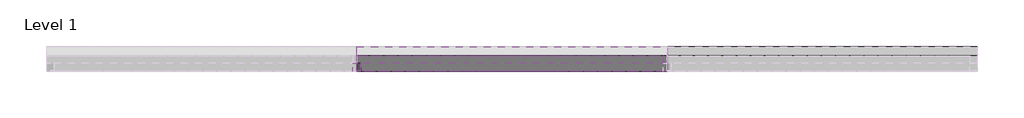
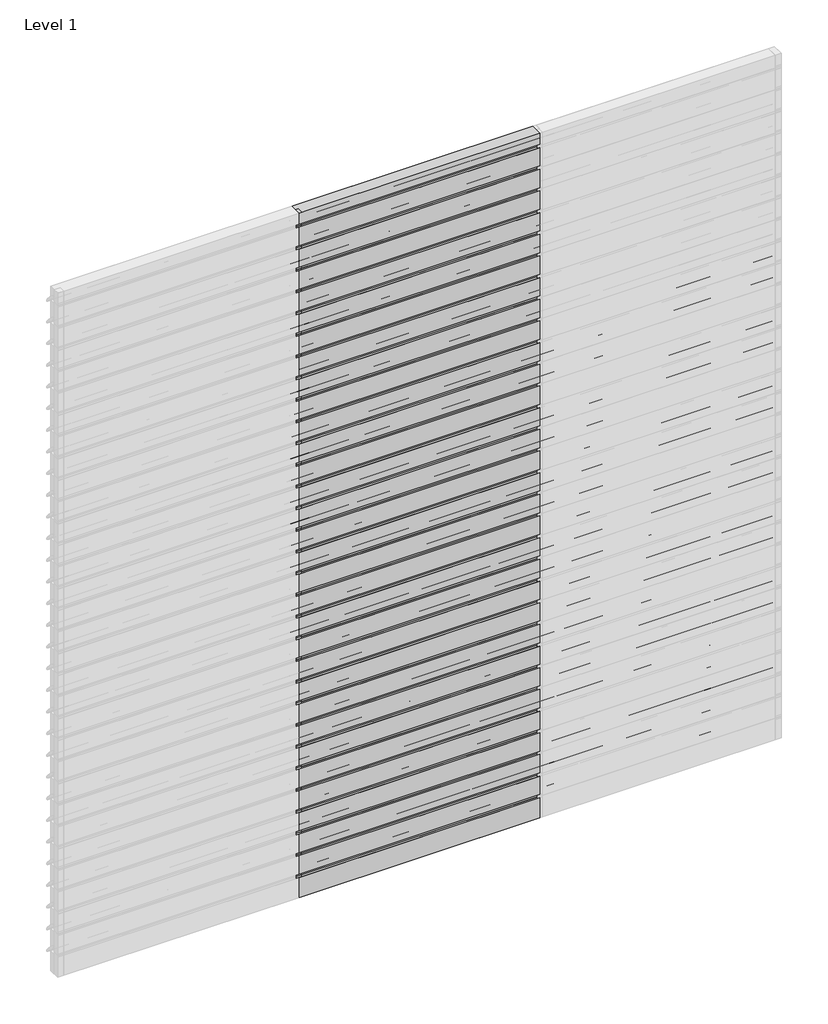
# One storey, part 2 of 3: 74 members, 64 plates.
"""IFC4 building model written with IfcOpenShell, lengths in millimetres."""

from ifc_helpers import new_model, si_unit, origin, place, context, project, spatial, transform, mapped, element, save
from components import rectangular_mullion_8734c8a8, rectangular_mullion_3201b9fb, rectangular_mullion_5aa39df7, empty_system_panel_empty_0e8c6ffc, empty_system_panel_empty_bbeb8583, empty_system_panel_empty_e07de6c1, empty_system_panel_empty_fbe7752e, empty_system_panel_empty_6f6190f9

model = new_model("IFC4")

# Units and contexts
model_context = context("Model", 3, world=origin())
ifc_project = project(units=[si_unit("LENGTHUNIT", "METRE", prefix="MILLI")], contexts=[model_context])

# Site, building, storey
site = spatial("IfcSite", under=ifc_project)
building = spatial("IfcBuilding", under=site)
storey = spatial("IfcBuildingStorey", under=building, Name="Level 1", Elevation=0.0)

# Members
placement = place(None, origin())
rectangular_mullion_shape = rectangular_mullion_8734c8a8(model_context)
element("IfcMember", 1, ObjectType="Rectangular Mullion : RSen_21_CWM_blade - 150 CF_gen_duco projects", at=placement, inside=storey, context=model_context, shape_type="MappedRepresentation", body=[
    mapped(rectangular_mullion_shape, transform((4000.0, 3000.0, 190.0), x_axis=(0.0, 0.0, 1.0), y_axis=(0.0, 1.0, 0.0), z_axis=(-1.0, 0.0, 0.0))),
])
element("IfcMember", 2, ObjectType="Rectangular Mullion : RSen_21_CWM_blade - 150 CF_gen_duco projects", at=placement, inside=storey, context=model_context, shape_type="MappedRepresentation", body=[
    mapped(rectangular_mullion_shape, transform((4000.0, 3000.0, 380.0), x_axis=(0.0, 0.0, 1.0), y_axis=(0.0, 1.0, 0.0), z_axis=(-1.0, 0.0, 0.0))),
])
element("IfcMember", 3, ObjectType="Rectangular Mullion : RSen_21_CWM_blade - 150 CF_gen_duco projects", at=placement, inside=storey, context=model_context, shape_type="MappedRepresentation", body=[
    mapped(rectangular_mullion_shape, transform((4000.0, 3000.0, 570.0), x_axis=(0.0, 0.0, 1.0), y_axis=(0.0, 1.0, 0.0), z_axis=(-1.0, 0.0, 0.0))),
])
element("IfcMember", 4, ObjectType="Rectangular Mullion : RSen_21_CWM_blade - 150 CF_gen_duco projects", at=placement, inside=storey, context=model_context, shape_type="MappedRepresentation", body=[
    mapped(rectangular_mullion_shape, transform((4000.0, 3000.0, 760.0), x_axis=(0.0, 0.0, 1.0), y_axis=(0.0, 1.0, 0.0), z_axis=(-1.0, 0.0, 0.0))),
])
element("IfcMember", 5, ObjectType="Rectangular Mullion : RSen_21_CWM_blade - 150 CF_gen_duco projects", at=placement, inside=storey, context=model_context, shape_type="MappedRepresentation", body=[
    mapped(rectangular_mullion_shape, transform((4000.0, 3000.0, 950.0), x_axis=(0.0, 0.0, 1.0), y_axis=(0.0, 1.0, 0.0), z_axis=(-1.0, 0.0, 0.0))),
])
element("IfcMember", 6, ObjectType="Rectangular Mullion : RSen_21_CWM_blade - 150 CF_gen_duco projects", at=placement, inside=storey, context=model_context, shape_type="MappedRepresentation", body=[
    mapped(rectangular_mullion_shape, transform((4000.0, 3000.0, 1140.0), x_axis=(0.0, 0.0, 1.0), y_axis=(0.0, 1.0, 0.0), z_axis=(-1.0, 0.0, 0.0))),
])
element("IfcMember", 7, ObjectType="Rectangular Mullion : RSen_21_CWM_blade - 150 CF_gen_duco projects", at=placement, inside=storey, context=model_context, shape_type="MappedRepresentation", body=[
    mapped(rectangular_mullion_shape, transform((4000.0, 3000.0, 1330.0), x_axis=(0.0, 0.0, 1.0), y_axis=(0.0, 1.0, 0.0), z_axis=(-1.0, 0.0, 0.0))),
])
element("IfcMember", 8, ObjectType="Rectangular Mullion : RSen_21_CWM_blade - 150 CF_gen_duco projects", at=placement, inside=storey, context=model_context, shape_type="MappedRepresentation", body=[
    mapped(rectangular_mullion_shape, transform((4000.0, 3000.0, 1520.0), x_axis=(0.0, 0.0, 1.0), y_axis=(0.0, 1.0, 0.0), z_axis=(-1.0, 0.0, 0.0))),
])
element("IfcMember", 9, ObjectType="Rectangular Mullion : RSen_21_CWM_blade - 150 CF_gen_duco projects", at=placement, inside=storey, context=model_context, shape_type="MappedRepresentation", body=[
    mapped(rectangular_mullion_shape, transform((4000.0, 3000.0, 1710.0), x_axis=(0.0, 0.0, 1.0), y_axis=(0.0, 1.0, 0.0), z_axis=(-1.0, 0.0, 0.0))),
])
element("IfcMember", 10, ObjectType="Rectangular Mullion : RSen_21_CWM_blade - 150 CF_gen_duco projects", at=placement, inside=storey, context=model_context, shape_type="MappedRepresentation", body=[
    mapped(rectangular_mullion_shape, transform((4000.0, 3000.0, 1900.0), x_axis=(0.0, 0.0, 1.0), y_axis=(0.0, 1.0, 0.0), z_axis=(-1.0, 0.0, 0.0))),
])
element("IfcMember", 11, ObjectType="Rectangular Mullion : RSen_21_CWM_blade - 150 CF_gen_duco projects", at=placement, inside=storey, context=model_context, shape_type="MappedRepresentation", body=[
    mapped(rectangular_mullion_shape, transform((4000.0, 3000.0, 2090.0), x_axis=(0.0, 0.0, 1.0), y_axis=(0.0, 1.0, 0.0), z_axis=(-1.0, 0.0, 0.0))),
])
element("IfcMember", 12, ObjectType="Rectangular Mullion : RSen_21_CWM_blade - 150 CF_gen_duco projects", at=placement, inside=storey, context=model_context, shape_type="MappedRepresentation", body=[
    mapped(rectangular_mullion_shape, transform((4000.0, 3000.0, 2280.0), x_axis=(0.0, 0.0, 1.0), y_axis=(0.0, 1.0, 0.0), z_axis=(-1.0, 0.0, 0.0))),
])
element("IfcMember", 13, ObjectType="Rectangular Mullion : RSen_21_CWM_blade - 150 CF_gen_duco projects", at=placement, inside=storey, context=model_context, shape_type="MappedRepresentation", body=[
    mapped(rectangular_mullion_shape, transform((4000.0, 3000.0, 2470.0), x_axis=(0.0, 0.0, 1.0), y_axis=(0.0, 1.0, 0.0), z_axis=(-1.0, 0.0, 0.0))),
])
element("IfcMember", 14, ObjectType="Rectangular Mullion : RSen_21_CWM_blade - 150 CF_gen_duco projects", at=placement, inside=storey, context=model_context, shape_type="MappedRepresentation", body=[
    mapped(rectangular_mullion_shape, transform((4000.0, 3000.0, 2660.0), x_axis=(0.0, 0.0, 1.0), y_axis=(0.0, 1.0, 0.0), z_axis=(-1.0, 0.0, 0.0))),
])
element("IfcMember", 15, ObjectType="Rectangular Mullion : RSen_21_CWM_blade - 150 CF_gen_duco projects", at=placement, inside=storey, context=model_context, shape_type="MappedRepresentation", body=[
    mapped(rectangular_mullion_shape, transform((4000.0, 3000.0, 2850.0), x_axis=(0.0, 0.0, 1.0), y_axis=(0.0, 1.0, 0.0), z_axis=(-1.0, 0.0, 0.0))),
])
element("IfcMember", 16, ObjectType="Rectangular Mullion : RSen_21_CWM_blade - 150 CF_gen_duco projects", at=placement, inside=storey, context=model_context, shape_type="MappedRepresentation", body=[
    mapped(rectangular_mullion_shape, transform((4000.0, 3000.0, 3040.0), x_axis=(0.0, 0.0, 1.0), y_axis=(0.0, 1.0, 0.0), z_axis=(-1.0, 0.0, 0.0))),
])
element("IfcMember", 17, ObjectType="Rectangular Mullion : RSen_21_CWM_blade - 150 CF_gen_duco projects", at=placement, inside=storey, context=model_context, shape_type="MappedRepresentation", body=[
    mapped(rectangular_mullion_shape, transform((4000.0, 3000.0, 3230.0), x_axis=(0.0, 0.0, 1.0), y_axis=(0.0, 1.0, 0.0), z_axis=(-1.0, 0.0, 0.0))),
])
element("IfcMember", 18, ObjectType="Rectangular Mullion : RSen_21_CWM_blade - 150 CF_gen_duco projects", at=placement, inside=storey, context=model_context, shape_type="MappedRepresentation", body=[
    mapped(rectangular_mullion_shape, transform((4000.0, 3000.0, 3420.0), x_axis=(0.0, 0.0, 1.0), y_axis=(0.0, 1.0, 0.0), z_axis=(-1.0, 0.0, 0.0))),
])
element("IfcMember", 19, ObjectType="Rectangular Mullion : RSen_21_CWM_blade - 150 CF_gen_duco projects", at=placement, inside=storey, context=model_context, shape_type="MappedRepresentation", body=[
    mapped(rectangular_mullion_shape, transform((4000.0, 3000.0, 3610.0), x_axis=(0.0, 0.0, 1.0), y_axis=(0.0, 1.0, 0.0), z_axis=(-1.0, 0.0, 0.0))),
])
element("IfcMember", 20, ObjectType="Rectangular Mullion : RSen_21_CWM_blade - 150 CF_gen_duco projects", at=placement, inside=storey, context=model_context, shape_type="MappedRepresentation", body=[
    mapped(rectangular_mullion_shape, transform((4000.0, 3000.0, 3800.0), x_axis=(0.0, 0.0, 1.0), y_axis=(0.0, 1.0, 0.0), z_axis=(-1.0, 0.0, 0.0))),
])
element("IfcMember", 21, ObjectType="Rectangular Mullion : RSen_21_CWM_blade - 150 CF_gen_duco projects", at=placement, inside=storey, context=model_context, shape_type="MappedRepresentation", body=[
    mapped(rectangular_mullion_shape, transform((4000.0, 3000.0, 3990.0), x_axis=(0.0, 0.0, 1.0), y_axis=(0.0, 1.0, 0.0), z_axis=(-1.0, 0.0, 0.0))),
])
element("IfcMember", 22, ObjectType="Rectangular Mullion : RSen_21_CWM_blade - 150 CF_gen_duco projects", at=placement, inside=storey, context=model_context, shape_type="MappedRepresentation", body=[
    mapped(rectangular_mullion_shape, transform((4000.0, 3000.0, 4180.0), x_axis=(0.0, 0.0, 1.0), y_axis=(0.0, 1.0, 0.0), z_axis=(-1.0, 0.0, 0.0))),
])
element("IfcMember", 23, ObjectType="Rectangular Mullion : RSen_21_CWM_blade - 150 CF_gen_duco projects", at=placement, inside=storey, context=model_context, shape_type="MappedRepresentation", body=[
    mapped(rectangular_mullion_shape, transform((2000.0, 3000.0, 2280.0), x_axis=(0.0, 0.0, 1.0), y_axis=(0.0, 1.0, 0.0), z_axis=(-1.0, 0.0, 0.0))),
])
element("IfcMember", 24, ObjectType="Rectangular Mullion : RSen_21_CWM_blade - 150 CF_gen_duco projects", at=placement, inside=storey, context=model_context, shape_type="MappedRepresentation", body=[
    mapped(rectangular_mullion_shape, transform((2000.0, 3000.0, 2470.0), x_axis=(0.0, 0.0, 1.0), y_axis=(0.0, 1.0, 0.0), z_axis=(-1.0, 0.0, 0.0))),
])
element("IfcMember", 25, ObjectType="Rectangular Mullion : RSen_21_CWM_blade - 150 CF_gen_duco projects", at=placement, inside=storey, context=model_context, shape_type="MappedRepresentation", body=[
    mapped(rectangular_mullion_shape, transform((2000.0, 3000.0, 2660.0), x_axis=(0.0, 0.0, 1.0), y_axis=(0.0, 1.0, 0.0), z_axis=(-1.0, 0.0, 0.0))),
])
element("IfcMember", 26, ObjectType="Rectangular Mullion : RSen_21_CWM_blade - 150 CF_gen_duco projects", at=placement, inside=storey, context=model_context, shape_type="MappedRepresentation", body=[
    mapped(rectangular_mullion_shape, transform((2000.0, 3000.0, 2850.0), x_axis=(0.0, 0.0, 1.0), y_axis=(0.0, 1.0, 0.0), z_axis=(-1.0, 0.0, 0.0))),
])
element("IfcMember", 27, ObjectType="Rectangular Mullion : RSen_21_CWM_blade - 150 CF_gen_duco projects", at=placement, inside=storey, context=model_context, shape_type="MappedRepresentation", body=[
    mapped(rectangular_mullion_shape, transform((2000.0, 3000.0, 3040.0), x_axis=(0.0, 0.0, 1.0), y_axis=(0.0, 1.0, 0.0), z_axis=(-1.0, 0.0, 0.0))),
])
element("IfcMember", 28, ObjectType="Rectangular Mullion : RSen_21_CWM_blade - 150 CF_gen_duco projects", at=placement, inside=storey, context=model_context, shape_type="MappedRepresentation", body=[
    mapped(rectangular_mullion_shape, transform((2000.0, 3000.0, 3230.0), x_axis=(0.0, 0.0, 1.0), y_axis=(0.0, 1.0, 0.0), z_axis=(-1.0, 0.0, 0.0))),
])
element("IfcMember", 29, ObjectType="Rectangular Mullion : RSen_21_CWM_blade - 150 CF_gen_duco projects", at=placement, inside=storey, context=model_context, shape_type="MappedRepresentation", body=[
    mapped(rectangular_mullion_shape, transform((2000.0, 3000.0, 3420.0), x_axis=(0.0, 0.0, 1.0), y_axis=(0.0, 1.0, 0.0), z_axis=(-1.0, 0.0, 0.0))),
])
element("IfcMember", 30, ObjectType="Rectangular Mullion : RSen_21_CWM_blade - 150 CF_gen_duco projects", at=placement, inside=storey, context=model_context, shape_type="MappedRepresentation", body=[
    mapped(rectangular_mullion_shape, transform((2000.0, 3000.0, 3610.0), x_axis=(0.0, 0.0, 1.0), y_axis=(0.0, 1.0, 0.0), z_axis=(-1.0, 0.0, 0.0))),
])
element("IfcMember", 31, ObjectType="Rectangular Mullion : RSen_21_CWM_blade - 150 CF_gen_duco projects", at=placement, inside=storey, context=model_context, shape_type="MappedRepresentation", body=[
    mapped(rectangular_mullion_shape, transform((2000.0, 3000.0, 3800.0), x_axis=(0.0, 0.0, 1.0), y_axis=(0.0, 1.0, 0.0), z_axis=(-1.0, 0.0, 0.0))),
])
element("IfcMember", 32, ObjectType="Rectangular Mullion : RSen_21_CWM_blade - 150 CF_gen_duco projects", at=placement, inside=storey, context=model_context, shape_type="MappedRepresentation", body=[
    mapped(rectangular_mullion_shape, transform((2000.0, 3000.0, 3990.0), x_axis=(0.0, 0.0, 1.0), y_axis=(0.0, 1.0, 0.0), z_axis=(-1.0, 0.0, 0.0))),
])
element("IfcMember", 33, ObjectType="Rectangular Mullion : RSen_21_CWM_blade - 150 CF_gen_duco projects", at=placement, inside=storey, context=model_context, shape_type="MappedRepresentation", body=[
    mapped(rectangular_mullion_shape, transform((2000.0, 3000.0, 4180.0), x_axis=(0.0, 0.0, 1.0), y_axis=(0.0, 1.0, 0.0), z_axis=(-1.0, 0.0, 0.0))),
])
element("IfcMember", 34, ObjectType="Rectangular Mullion : RSen_21_CWM_blade - 150 CF_gen_duco projects", at=placement, inside=storey, context=model_context, shape_type="MappedRepresentation", body=[
    mapped(rectangular_mullion_shape, transform((2000.0, 3000.0, 4370.0), x_axis=(0.0, 0.0, 1.0), y_axis=(0.0, 1.0, 0.0), z_axis=(-1.0, 0.0, 0.0))),
])
element("IfcMember", 35, ObjectType="Rectangular Mullion : RSen_21_CWM_blade - 150 CF_gen_duco projects", at=placement, inside=storey, context=model_context, shape_type="MappedRepresentation", body=[
    mapped(rectangular_mullion_shape, transform((2000.0, 3000.0, 4560.0), x_axis=(0.0, 0.0, 1.0), y_axis=(0.0, 1.0, 0.0), z_axis=(-1.0, 0.0, 0.0))),
])
element("IfcMember", 36, ObjectType="Rectangular Mullion : RSen_21_CWM_blade - 150 CF_gen_duco projects", at=placement, inside=storey, context=model_context, shape_type="MappedRepresentation", body=[
    mapped(rectangular_mullion_shape, transform((2000.0, 3000.0, 4750.0), x_axis=(0.0, 0.0, 1.0), y_axis=(0.0, 1.0, 0.0), z_axis=(-1.0, 0.0, 0.0))),
])
element("IfcMember", 37, ObjectType="Rectangular Mullion : RSen_21_CWM_blade - 150 CF_gen_duco projects", at=placement, inside=storey, context=model_context, shape_type="MappedRepresentation", body=[
    mapped(rectangular_mullion_shape, transform((2000.0, 3000.0, 4940.0), x_axis=(0.0, 0.0, 1.0), y_axis=(0.0, 1.0, 0.0), z_axis=(-1.0, 0.0, 0.0))),
])
element("IfcMember", 38, ObjectType="Rectangular Mullion : RSen_21_CWM_blade - 150 CF_gen_duco projects", at=placement, inside=storey, context=model_context, shape_type="MappedRepresentation", body=[
    mapped(rectangular_mullion_shape, transform((2000.0, 3000.0, 5130.0), x_axis=(0.0, 0.0, 1.0), y_axis=(0.0, 1.0, 0.0), z_axis=(-1.0, 0.0, 0.0))),
])
element("IfcMember", 39, ObjectType="Rectangular Mullion : RSen_21_CWM_blade - 150 CF_gen_duco projects", at=placement, inside=storey, context=model_context, shape_type="MappedRepresentation", body=[
    mapped(rectangular_mullion_shape, transform((2000.0, 3000.0, 5320.0), x_axis=(0.0, 0.0, 1.0), y_axis=(0.0, 1.0, 0.0), z_axis=(-1.0, 0.0, 0.0))),
])
element("IfcMember", 40, ObjectType="Rectangular Mullion : RSen_21_CWM_blade - 150 CF_gen_duco projects", at=placement, inside=storey, context=model_context, shape_type="MappedRepresentation", body=[
    mapped(rectangular_mullion_shape, transform((2000.0, 3000.0, 5510.0), x_axis=(0.0, 0.0, 1.0), y_axis=(0.0, 1.0, 0.0), z_axis=(-1.0, 0.0, 0.0))),
])
element("IfcMember", 41, ObjectType="Rectangular Mullion : RSen_21_CWM_blade - 150 CF_gen_duco projects", at=placement, inside=storey, context=model_context, shape_type="MappedRepresentation", body=[
    mapped(rectangular_mullion_shape, transform((2000.0, 3000.0, 5700.0), x_axis=(0.0, 0.0, 1.0), y_axis=(0.0, 1.0, 0.0), z_axis=(-1.0, 0.0, 0.0))),
])
element("IfcMember", 42, ObjectType="Rectangular Mullion : RSen_21_CWM_blade - 150 CF_gen_duco projects", at=placement, inside=storey, context=model_context, shape_type="MappedRepresentation", body=[
    mapped(rectangular_mullion_shape, transform((2000.0, 3000.0, 5890.0), x_axis=(0.0, 0.0, 1.0), y_axis=(0.0, 1.0, 0.0), z_axis=(-1.0, 0.0, 0.0))),
])
rectangular_mullion_2_shape = rectangular_mullion_3201b9fb(model_context)
element("IfcMember", 43, ObjectType="Rectangular Mullion : RSen_21_CWM_support profile 50x50_gen_duco projects", at=placement, inside=storey, context=model_context, shape_type="MappedRepresentation", body=[
    mapped(rectangular_mullion_2_shape, transform((2000.0, 3000.0, 0.0), x_axis=(-1.0, 0.0, 0.0), y_axis=(0.0, 1.0, 0.0), z_axis=(0.0, 0.0, -1.0))),
])
element("IfcMember", 44, ObjectType="Rectangular Mullion : RSen_21_CWM_support profile 50x50_gen_duco projects", at=placement, inside=storey, context=model_context, shape_type="MappedRepresentation", body=[
    mapped(rectangular_mullion_2_shape, transform((2000.0, 3000.0, 190.0), x_axis=(-1.0, 0.0, 0.0), y_axis=(0.0, 1.0, 0.0), z_axis=(0.0, 0.0, -1.0))),
])
element("IfcMember", 45, ObjectType="Rectangular Mullion : RSen_21_CWM_support profile 50x50_gen_duco projects", at=placement, inside=storey, context=model_context, shape_type="MappedRepresentation", body=[
    mapped(rectangular_mullion_2_shape, transform((2000.0, 3000.0, 380.0), x_axis=(-1.0, 0.0, 0.0), y_axis=(0.0, 1.0, 0.0), z_axis=(0.0, 0.0, -1.0))),
])
element("IfcMember", 46, ObjectType="Rectangular Mullion : RSen_21_CWM_support profile 50x50_gen_duco projects", at=placement, inside=storey, context=model_context, shape_type="MappedRepresentation", body=[
    mapped(rectangular_mullion_2_shape, transform((2000.0, 3000.0, 570.0), x_axis=(-1.0, 0.0, 0.0), y_axis=(0.0, 1.0, 0.0), z_axis=(0.0, 0.0, -1.0))),
])
element("IfcMember", 47, ObjectType="Rectangular Mullion : RSen_21_CWM_support profile 50x50_gen_duco projects", at=placement, inside=storey, context=model_context, shape_type="MappedRepresentation", body=[
    mapped(rectangular_mullion_2_shape, transform((2000.0, 3000.0, 760.0), x_axis=(-1.0, 0.0, 0.0), y_axis=(0.0, 1.0, 0.0), z_axis=(0.0, 0.0, -1.0))),
])
element("IfcMember", 48, ObjectType="Rectangular Mullion : RSen_21_CWM_support profile 50x50_gen_duco projects", at=placement, inside=storey, context=model_context, shape_type="MappedRepresentation", body=[
    mapped(rectangular_mullion_2_shape, transform((2000.0, 3000.0, 950.0), x_axis=(-1.0, 0.0, 0.0), y_axis=(0.0, 1.0, 0.0), z_axis=(0.0, 0.0, -1.0))),
])
element("IfcMember", 49, ObjectType="Rectangular Mullion : RSen_21_CWM_support profile 50x50_gen_duco projects", at=placement, inside=storey, context=model_context, shape_type="MappedRepresentation", body=[
    mapped(rectangular_mullion_2_shape, transform((2000.0, 3000.0, 1140.0), x_axis=(-1.0, 0.0, 0.0), y_axis=(0.0, 1.0, 0.0), z_axis=(0.0, 0.0, -1.0))),
])
element("IfcMember", 50, ObjectType="Rectangular Mullion : RSen_21_CWM_support profile 50x50_gen_duco projects", at=placement, inside=storey, context=model_context, shape_type="MappedRepresentation", body=[
    mapped(rectangular_mullion_2_shape, transform((2000.0, 3000.0, 1330.0), x_axis=(-1.0, 0.0, 0.0), y_axis=(0.0, 1.0, 0.0), z_axis=(0.0, 0.0, -1.0))),
])
element("IfcMember", 51, ObjectType="Rectangular Mullion : RSen_21_CWM_support profile 50x50_gen_duco projects", at=placement, inside=storey, context=model_context, shape_type="MappedRepresentation", body=[
    mapped(rectangular_mullion_2_shape, transform((2000.0, 3000.0, 1520.0), x_axis=(-1.0, 0.0, 0.0), y_axis=(0.0, 1.0, 0.0), z_axis=(0.0, 0.0, -1.0))),
])
element("IfcMember", 52, ObjectType="Rectangular Mullion : RSen_21_CWM_support profile 50x50_gen_duco projects", at=placement, inside=storey, context=model_context, shape_type="MappedRepresentation", body=[
    mapped(rectangular_mullion_2_shape, transform((2000.0, 3000.0, 1710.0), x_axis=(-1.0, 0.0, 0.0), y_axis=(0.0, 1.0, 0.0), z_axis=(0.0, 0.0, -1.0))),
])
element("IfcMember", 53, ObjectType="Rectangular Mullion : RSen_21_CWM_support profile 50x50_gen_duco projects", at=placement, inside=storey, context=model_context, shape_type="MappedRepresentation", body=[
    mapped(rectangular_mullion_2_shape, transform((2000.0, 3000.0, 1900.0), x_axis=(-1.0, 0.0, 0.0), y_axis=(0.0, 1.0, 0.0), z_axis=(0.0, 0.0, -1.0))),
])
element("IfcMember", 54, ObjectType="Rectangular Mullion : RSen_21_CWM_support profile 50x50_gen_duco projects", at=placement, inside=storey, context=model_context, shape_type="MappedRepresentation", body=[
    mapped(rectangular_mullion_2_shape, transform((2000.0, 3000.0, 2090.0), x_axis=(-1.0, 0.0, 0.0), y_axis=(0.0, 1.0, 0.0), z_axis=(0.0, 0.0, -1.0))),
])
element("IfcMember", 55, ObjectType="Rectangular Mullion : RSen_21_CWM_support profile 50x50_gen_duco projects", at=placement, inside=storey, context=model_context, shape_type="MappedRepresentation", body=[
    mapped(rectangular_mullion_2_shape, transform((2000.0, 3000.0, 2280.0), x_axis=(-1.0, 0.0, 0.0), y_axis=(0.0, 1.0, 0.0), z_axis=(0.0, 0.0, -1.0))),
])
element("IfcMember", 56, ObjectType="Rectangular Mullion : RSen_21_CWM_support profile 50x50_gen_duco projects", at=placement, inside=storey, context=model_context, shape_type="MappedRepresentation", body=[
    mapped(rectangular_mullion_2_shape, transform((2000.0, 3000.0, 2470.0), x_axis=(-1.0, 0.0, 0.0), y_axis=(0.0, 1.0, 0.0), z_axis=(0.0, 0.0, -1.0))),
])
element("IfcMember", 57, ObjectType="Rectangular Mullion : RSen_21_CWM_support profile 50x50_gen_duco projects", at=placement, inside=storey, context=model_context, shape_type="MappedRepresentation", body=[
    mapped(rectangular_mullion_2_shape, transform((2000.0, 3000.0, 2660.0), x_axis=(-1.0, 0.0, 0.0), y_axis=(0.0, 1.0, 0.0), z_axis=(0.0, 0.0, -1.0))),
])
element("IfcMember", 58, ObjectType="Rectangular Mullion : RSen_21_CWM_support profile 50x50_gen_duco projects", at=placement, inside=storey, context=model_context, shape_type="MappedRepresentation", body=[
    mapped(rectangular_mullion_2_shape, transform((2000.0, 3000.0, 2850.0), x_axis=(-1.0, 0.0, 0.0), y_axis=(0.0, 1.0, 0.0), z_axis=(0.0, 0.0, -1.0))),
])
element("IfcMember", 59, ObjectType="Rectangular Mullion : RSen_21_CWM_support profile 50x50_gen_duco projects", at=placement, inside=storey, context=model_context, shape_type="MappedRepresentation", body=[
    mapped(rectangular_mullion_2_shape, transform((2000.0, 3000.0, 3040.0), x_axis=(-1.0, 0.0, 0.0), y_axis=(0.0, 1.0, 0.0), z_axis=(0.0, 0.0, -1.0))),
])
element("IfcMember", 60, ObjectType="Rectangular Mullion : RSen_21_CWM_support profile 50x50_gen_duco projects", at=placement, inside=storey, context=model_context, shape_type="MappedRepresentation", body=[
    mapped(rectangular_mullion_2_shape, transform((2000.0, 3000.0, 3230.0), x_axis=(-1.0, 0.0, 0.0), y_axis=(0.0, 1.0, 0.0), z_axis=(0.0, 0.0, -1.0))),
])
element("IfcMember", 61, ObjectType="Rectangular Mullion : RSen_21_CWM_support profile 50x50_gen_duco projects", at=placement, inside=storey, context=model_context, shape_type="MappedRepresentation", body=[
    mapped(rectangular_mullion_2_shape, transform((2000.0, 3000.0, 3420.0), x_axis=(-1.0, 0.0, 0.0), y_axis=(0.0, 1.0, 0.0), z_axis=(0.0, 0.0, -1.0))),
])
element("IfcMember", 62, ObjectType="Rectangular Mullion : RSen_21_CWM_support profile 50x50_gen_duco projects", at=placement, inside=storey, context=model_context, shape_type="MappedRepresentation", body=[
    mapped(rectangular_mullion_2_shape, transform((2000.0, 3000.0, 3610.0), x_axis=(-1.0, 0.0, 0.0), y_axis=(0.0, 1.0, 0.0), z_axis=(0.0, 0.0, -1.0))),
])
element("IfcMember", 63, ObjectType="Rectangular Mullion : RSen_21_CWM_support profile 50x50_gen_duco projects", at=placement, inside=storey, context=model_context, shape_type="MappedRepresentation", body=[
    mapped(rectangular_mullion_2_shape, transform((2000.0, 3000.0, 3800.0), x_axis=(-1.0, 0.0, 0.0), y_axis=(0.0, 1.0, 0.0), z_axis=(0.0, 0.0, -1.0))),
])
element("IfcMember", 64, ObjectType="Rectangular Mullion : RSen_21_CWM_support profile 50x50_gen_duco projects", at=placement, inside=storey, context=model_context, shape_type="MappedRepresentation", body=[
    mapped(rectangular_mullion_2_shape, transform((2000.0, 3000.0, 3990.0), x_axis=(-1.0, 0.0, 0.0), y_axis=(0.0, 1.0, 0.0), z_axis=(0.0, 0.0, -1.0))),
])
element("IfcMember", 65, ObjectType="Rectangular Mullion : RSen_21_CWM_support profile 50x50_gen_duco projects", at=placement, inside=storey, context=model_context, shape_type="MappedRepresentation", body=[
    mapped(rectangular_mullion_2_shape, transform((2000.0, 3000.0, 4180.0), x_axis=(-1.0, 0.0, 0.0), y_axis=(0.0, 1.0, 0.0), z_axis=(0.0, 0.0, -1.0))),
])
element("IfcMember", 66, ObjectType="Rectangular Mullion : RSen_21_CWM_support profile 50x50_gen_duco projects", at=placement, inside=storey, context=model_context, shape_type="MappedRepresentation", body=[
    mapped(rectangular_mullion_2_shape, transform((2000.0, 3000.0, 4370.0), x_axis=(-1.0, 0.0, 0.0), y_axis=(0.0, 1.0, 0.0), z_axis=(0.0, 0.0, -1.0))),
])
element("IfcMember", 67, ObjectType="Rectangular Mullion : RSen_21_CWM_support profile 50x50_gen_duco projects", at=placement, inside=storey, context=model_context, shape_type="MappedRepresentation", body=[
    mapped(rectangular_mullion_2_shape, transform((2000.0, 3000.0, 4560.0), x_axis=(-1.0, 0.0, 0.0), y_axis=(0.0, 1.0, 0.0), z_axis=(0.0, 0.0, -1.0))),
])
element("IfcMember", 68, ObjectType="Rectangular Mullion : RSen_21_CWM_support profile 50x50_gen_duco projects", at=placement, inside=storey, context=model_context, shape_type="MappedRepresentation", body=[
    mapped(rectangular_mullion_2_shape, transform((2000.0, 3000.0, 4750.0), x_axis=(-1.0, 0.0, 0.0), y_axis=(0.0, 1.0, 0.0), z_axis=(0.0, 0.0, -1.0))),
])
element("IfcMember", 69, ObjectType="Rectangular Mullion : RSen_21_CWM_support profile 50x50_gen_duco projects", at=placement, inside=storey, context=model_context, shape_type="MappedRepresentation", body=[
    mapped(rectangular_mullion_2_shape, transform((2000.0, 3000.0, 4940.0), x_axis=(-1.0, 0.0, 0.0), y_axis=(0.0, 1.0, 0.0), z_axis=(0.0, 0.0, -1.0))),
])
element("IfcMember", 70, ObjectType="Rectangular Mullion : RSen_21_CWM_support profile 50x50_gen_duco projects", at=placement, inside=storey, context=model_context, shape_type="MappedRepresentation", body=[
    mapped(rectangular_mullion_2_shape, transform((2000.0, 3000.0, 5130.0), x_axis=(-1.0, 0.0, 0.0), y_axis=(0.0, 1.0, 0.0), z_axis=(0.0, 0.0, -1.0))),
])
element("IfcMember", 71, ObjectType="Rectangular Mullion : RSen_21_CWM_support profile 50x50_gen_duco projects", at=placement, inside=storey, context=model_context, shape_type="MappedRepresentation", body=[
    mapped(rectangular_mullion_2_shape, transform((2000.0, 3000.0, 5320.0), x_axis=(-1.0, 0.0, 0.0), y_axis=(0.0, 1.0, 0.0), z_axis=(0.0, 0.0, -1.0))),
])
element("IfcMember", 72, ObjectType="Rectangular Mullion : RSen_21_CWM_support profile 50x50_gen_duco projects", at=placement, inside=storey, context=model_context, shape_type="MappedRepresentation", body=[
    mapped(rectangular_mullion_2_shape, transform((2000.0, 3000.0, 5510.0), x_axis=(-1.0, 0.0, 0.0), y_axis=(0.0, 1.0, 0.0), z_axis=(0.0, 0.0, -1.0))),
])
element("IfcMember", 73, ObjectType="Rectangular Mullion : RSen_21_CWM_support profile 50x50_gen_duco projects", at=placement, inside=storey, context=model_context, shape_type="MappedRepresentation", body=[
    mapped(rectangular_mullion_2_shape, transform((2000.0, 3000.0, 5700.0), x_axis=(-1.0, 0.0, 0.0), y_axis=(0.0, 1.0, 0.0), z_axis=(0.0, 0.0, -1.0))),
])
rectangular_mullion_3_shape = rectangular_mullion_5aa39df7(model_context)
element("IfcMember", 74, ObjectType="Rectangular Mullion : RSen_21_CWM_support profile 50x50_gen_duco projects", at=placement, inside=storey, context=model_context, shape_type="MappedRepresentation", body=[
    mapped(rectangular_mullion_3_shape, transform((2000.0, 3000.0, 5890.0), x_axis=(-1.0, 0.0, 0.0), y_axis=(0.0, 1.0, 0.0), z_axis=(0.0, 0.0, -1.0))),
])

# Plates
empty_system_panel_empty_shape = empty_system_panel_empty_0e8c6ffc(model_context)
element("IfcPlate", 75, ObjectType="Empty System Panel : Empty", at=placement, inside=storey, context=model_context, shape_type="MappedRepresentation", body=[
    mapped(empty_system_panel_empty_shape, transform((3000.0, 3000.0, 0.0), x_axis=(-1.0, 0.0, 0.0), y_axis=(0.0, -1.0, 0.0), z_axis=(0.0, 0.0, 1.0))),
])
empty_system_panel_empty_2_shape = empty_system_panel_empty_bbeb8583(model_context)
element("IfcPlate", 76, ObjectType="Empty System Panel : Empty", at=placement, inside=storey, context=model_context, shape_type="MappedRepresentation", body=[
    mapped(empty_system_panel_empty_2_shape, transform((3000.0, 3000.0, 204.8492424), x_axis=(-1.0, 0.0, 0.0), y_axis=(0.0, -1.0, 0.0), z_axis=(0.0, 0.0, 1.0))),
])
element("IfcPlate", 77, ObjectType="Empty System Panel : Empty", at=placement, inside=storey, context=model_context, shape_type="MappedRepresentation", body=[
    mapped(empty_system_panel_empty_2_shape, transform((3000.0, 3000.0, 394.8492424), x_axis=(-1.0, 0.0, 0.0), y_axis=(0.0, -1.0, 0.0), z_axis=(0.0, 0.0, 1.0))),
])
element("IfcPlate", 78, ObjectType="Empty System Panel : Empty", at=placement, inside=storey, context=model_context, shape_type="MappedRepresentation", body=[
    mapped(empty_system_panel_empty_2_shape, transform((3000.0, 3000.0, 584.8492424), x_axis=(-1.0, 0.0, 0.0), y_axis=(0.0, -1.0, 0.0), z_axis=(0.0, 0.0, 1.0))),
])
element("IfcPlate", 79, ObjectType="Empty System Panel : Empty", at=placement, inside=storey, context=model_context, shape_type="MappedRepresentation", body=[
    mapped(empty_system_panel_empty_2_shape, transform((3000.0, 3000.0, 774.8492424), x_axis=(-1.0, 0.0, 0.0), y_axis=(0.0, -1.0, 0.0), z_axis=(0.0, 0.0, 1.0))),
])
element("IfcPlate", 80, ObjectType="Empty System Panel : Empty", at=placement, inside=storey, context=model_context, shape_type="MappedRepresentation", body=[
    mapped(empty_system_panel_empty_2_shape, transform((3000.0, 3000.0, 964.8492424), x_axis=(-1.0, 0.0, 0.0), y_axis=(0.0, -1.0, 0.0), z_axis=(0.0, 0.0, 1.0))),
])
element("IfcPlate", 81, ObjectType="Empty System Panel : Empty", at=placement, inside=storey, context=model_context, shape_type="MappedRepresentation", body=[
    mapped(empty_system_panel_empty_2_shape, transform((3000.0, 3000.0, 1154.8492424), x_axis=(-1.0, 0.0, 0.0), y_axis=(0.0, -1.0, 0.0), z_axis=(0.0, 0.0, 1.0))),
])
element("IfcPlate", 82, ObjectType="Empty System Panel : Empty", at=placement, inside=storey, context=model_context, shape_type="MappedRepresentation", body=[
    mapped(empty_system_panel_empty_2_shape, transform((3000.0, 3000.0, 1344.8492424), x_axis=(-1.0, 0.0, 0.0), y_axis=(0.0, -1.0, 0.0), z_axis=(0.0, 0.0, 1.0))),
])
element("IfcPlate", 83, ObjectType="Empty System Panel : Empty", at=placement, inside=storey, context=model_context, shape_type="MappedRepresentation", body=[
    mapped(empty_system_panel_empty_2_shape, transform((3000.0, 3000.0, 1534.8492424), x_axis=(-1.0, 0.0, 0.0), y_axis=(0.0, -1.0, 0.0), z_axis=(0.0, 0.0, 1.0))),
])
element("IfcPlate", 84, ObjectType="Empty System Panel : Empty", at=placement, inside=storey, context=model_context, shape_type="MappedRepresentation", body=[
    mapped(empty_system_panel_empty_2_shape, transform((3000.0, 3000.0, 1724.8492424), x_axis=(-1.0, 0.0, 0.0), y_axis=(0.0, -1.0, 0.0), z_axis=(0.0, 0.0, 1.0))),
])
element("IfcPlate", 85, ObjectType="Empty System Panel : Empty", at=placement, inside=storey, context=model_context, shape_type="MappedRepresentation", body=[
    mapped(empty_system_panel_empty_2_shape, transform((3000.0, 3000.0, 1914.8492424), x_axis=(-1.0, 0.0, 0.0), y_axis=(0.0, -1.0, 0.0), z_axis=(0.0, 0.0, 1.0))),
])
element("IfcPlate", 86, ObjectType="Empty System Panel : Empty", at=placement, inside=storey, context=model_context, shape_type="MappedRepresentation", body=[
    mapped(empty_system_panel_empty_2_shape, transform((3000.0, 3000.0, 2104.8492424), x_axis=(-1.0, 0.0, 0.0), y_axis=(0.0, -1.0, 0.0), z_axis=(0.0, 0.0, 1.0))),
])
element("IfcPlate", 87, ObjectType="Empty System Panel : Empty", at=placement, inside=storey, context=model_context, shape_type="MappedRepresentation", body=[
    mapped(empty_system_panel_empty_2_shape, transform((3000.0, 3000.0, 2294.8492424), x_axis=(-1.0, 0.0, 0.0), y_axis=(0.0, -1.0, 0.0), z_axis=(0.0, 0.0, 1.0))),
])
element("IfcPlate", 88, ObjectType="Empty System Panel : Empty", at=placement, inside=storey, context=model_context, shape_type="MappedRepresentation", body=[
    mapped(empty_system_panel_empty_2_shape, transform((3000.0, 3000.0, 2484.8492424), x_axis=(-1.0, 0.0, 0.0), y_axis=(0.0, -1.0, 0.0), z_axis=(0.0, 0.0, 1.0))),
])
element("IfcPlate", 89, ObjectType="Empty System Panel : Empty", at=placement, inside=storey, context=model_context, shape_type="MappedRepresentation", body=[
    mapped(empty_system_panel_empty_2_shape, transform((3000.0, 3000.0, 2674.8492424), x_axis=(-1.0, 0.0, 0.0), y_axis=(0.0, -1.0, 0.0), z_axis=(0.0, 0.0, 1.0))),
])
element("IfcPlate", 90, ObjectType="Empty System Panel : Empty", at=placement, inside=storey, context=model_context, shape_type="MappedRepresentation", body=[
    mapped(empty_system_panel_empty_2_shape, transform((3000.0, 3000.0, 2864.8492424), x_axis=(-1.0, 0.0, 0.0), y_axis=(0.0, -1.0, 0.0), z_axis=(0.0, 0.0, 1.0))),
])
element("IfcPlate", 91, ObjectType="Empty System Panel : Empty", at=placement, inside=storey, context=model_context, shape_type="MappedRepresentation", body=[
    mapped(empty_system_panel_empty_2_shape, transform((3000.0, 3000.0, 3054.8492424), x_axis=(-1.0, 0.0, 0.0), y_axis=(0.0, -1.0, 0.0), z_axis=(0.0, 0.0, 1.0))),
])
element("IfcPlate", 92, ObjectType="Empty System Panel : Empty", at=placement, inside=storey, context=model_context, shape_type="MappedRepresentation", body=[
    mapped(empty_system_panel_empty_2_shape, transform((3000.0, 3000.0, 3244.8492424), x_axis=(-1.0, 0.0, 0.0), y_axis=(0.0, -1.0, 0.0), z_axis=(0.0, 0.0, 1.0))),
])
element("IfcPlate", 93, ObjectType="Empty System Panel : Empty", at=placement, inside=storey, context=model_context, shape_type="MappedRepresentation", body=[
    mapped(empty_system_panel_empty_2_shape, transform((3000.0, 3000.0, 3434.8492424), x_axis=(-1.0, 0.0, 0.0), y_axis=(0.0, -1.0, 0.0), z_axis=(0.0, 0.0, 1.0))),
])
element("IfcPlate", 94, ObjectType="Empty System Panel : Empty", at=placement, inside=storey, context=model_context, shape_type="MappedRepresentation", body=[
    mapped(empty_system_panel_empty_2_shape, transform((3000.0, 3000.0, 3624.8492424), x_axis=(-1.0, 0.0, 0.0), y_axis=(0.0, -1.0, 0.0), z_axis=(0.0, 0.0, 1.0))),
])
element("IfcPlate", 95, ObjectType="Empty System Panel : Empty", at=placement, inside=storey, context=model_context, shape_type="MappedRepresentation", body=[
    mapped(empty_system_panel_empty_2_shape, transform((3000.0, 3000.0, 3814.8492424), x_axis=(-1.0, 0.0, 0.0), y_axis=(0.0, -1.0, 0.0), z_axis=(0.0, 0.0, 1.0))),
])
element("IfcPlate", 96, ObjectType="Empty System Panel : Empty", at=placement, inside=storey, context=model_context, shape_type="MappedRepresentation", body=[
    mapped(empty_system_panel_empty_2_shape, transform((3000.0, 3000.0, 4004.8492424), x_axis=(-1.0, 0.0, 0.0), y_axis=(0.0, -1.0, 0.0), z_axis=(0.0, 0.0, 1.0))),
])
element("IfcPlate", 97, ObjectType="Empty System Panel : Empty", at=placement, inside=storey, context=model_context, shape_type="MappedRepresentation", body=[
    mapped(empty_system_panel_empty_2_shape, transform((3000.0, 3000.0, 4194.8492424), x_axis=(-1.0, 0.0, 0.0), y_axis=(0.0, -1.0, 0.0), z_axis=(0.0, 0.0, 1.0))),
])
element("IfcPlate", 98, ObjectType="Empty System Panel : Empty", at=placement, inside=storey, context=model_context, shape_type="MappedRepresentation", body=[
    mapped(empty_system_panel_empty_2_shape, transform((3000.0, 3000.0, 4384.8492424), x_axis=(-1.0, 0.0, 0.0), y_axis=(0.0, -1.0, 0.0), z_axis=(0.0, 0.0, 1.0))),
])
element("IfcPlate", 99, ObjectType="Empty System Panel : Empty", at=placement, inside=storey, context=model_context, shape_type="MappedRepresentation", body=[
    mapped(empty_system_panel_empty_2_shape, transform((3000.0, 3000.0, 4574.8492424), x_axis=(-1.0, 0.0, 0.0), y_axis=(0.0, -1.0, 0.0), z_axis=(0.0, 0.0, 1.0))),
])
element("IfcPlate", 100, ObjectType="Empty System Panel : Empty", at=placement, inside=storey, context=model_context, shape_type="MappedRepresentation", body=[
    mapped(empty_system_panel_empty_2_shape, transform((3000.0, 3000.0, 4764.8492424), x_axis=(-1.0, 0.0, 0.0), y_axis=(0.0, -1.0, 0.0), z_axis=(0.0, 0.0, 1.0))),
])
element("IfcPlate", 101, ObjectType="Empty System Panel : Empty", at=placement, inside=storey, context=model_context, shape_type="MappedRepresentation", body=[
    mapped(empty_system_panel_empty_2_shape, transform((3000.0, 3000.0, 4954.8492424), x_axis=(-1.0, 0.0, 0.0), y_axis=(0.0, -1.0, 0.0), z_axis=(0.0, 0.0, 1.0))),
])
element("IfcPlate", 102, ObjectType="Empty System Panel : Empty", at=placement, inside=storey, context=model_context, shape_type="MappedRepresentation", body=[
    mapped(empty_system_panel_empty_2_shape, transform((3000.0, 3000.0, 5144.8492424), x_axis=(-1.0, 0.0, 0.0), y_axis=(0.0, -1.0, 0.0), z_axis=(0.0, 0.0, 1.0))),
])
element("IfcPlate", 103, ObjectType="Empty System Panel : Empty", at=placement, inside=storey, context=model_context, shape_type="MappedRepresentation", body=[
    mapped(empty_system_panel_empty_2_shape, transform((3000.0, 3000.0, 5334.8492424), x_axis=(-1.0, 0.0, 0.0), y_axis=(0.0, -1.0, 0.0), z_axis=(0.0, 0.0, 1.0))),
])
element("IfcPlate", 104, ObjectType="Empty System Panel : Empty", at=placement, inside=storey, context=model_context, shape_type="MappedRepresentation", body=[
    mapped(empty_system_panel_empty_2_shape, transform((3000.0, 3000.0, 5524.8492424), x_axis=(-1.0, 0.0, 0.0), y_axis=(0.0, -1.0, 0.0), z_axis=(0.0, 0.0, 1.0))),
])
element("IfcPlate", 105, ObjectType="Empty System Panel : Empty", at=placement, inside=storey, context=model_context, shape_type="MappedRepresentation", body=[
    mapped(empty_system_panel_empty_2_shape, transform((3000.0, 3000.0, 5714.8492424), x_axis=(-1.0, 0.0, 0.0), y_axis=(0.0, -1.0, 0.0), z_axis=(0.0, 0.0, 1.0))),
])
empty_system_panel_empty_3_shape = empty_system_panel_empty_e07de6c1(model_context)
element("IfcPlate", 106, ObjectType="Empty System Panel : Empty", at=placement, inside=storey, context=model_context, shape_type="MappedRepresentation", body=[
    mapped(empty_system_panel_empty_3_shape, transform((3000.0, 3000.0, 5904.8492424), x_axis=(-1.0, 0.0, 0.0), y_axis=(0.0, -1.0, 0.0), z_axis=(0.0, 0.0, 1.0))),
])
empty_system_panel_empty_4_shape = empty_system_panel_empty_fbe7752e(model_context)
element("IfcPlate", 107, ObjectType="Empty System Panel : Empty", at=placement, inside=storey, context=model_context, shape_type="MappedRepresentation", body=[
    mapped(empty_system_panel_empty_4_shape, transform((3000.0, 3000.0, 0.0), x_axis=(-1.0, 0.0, 0.0), y_axis=(0.0, -1.0, 0.0), z_axis=(0.0, 0.0, 1.0))),
])
element("IfcPlate", 108, ObjectType="Empty System Panel : Empty", at=placement, inside=storey, context=model_context, shape_type="MappedRepresentation", body=[
    mapped(empty_system_panel_empty_4_shape, transform((3000.0, 3000.0, 190.0), x_axis=(-1.0, 0.0, 0.0), y_axis=(0.0, -1.0, 0.0), z_axis=(0.0, 0.0, 1.0))),
])
element("IfcPlate", 109, ObjectType="Empty System Panel : Empty", at=placement, inside=storey, context=model_context, shape_type="MappedRepresentation", body=[
    mapped(empty_system_panel_empty_4_shape, transform((3000.0, 3000.0, 380.0), x_axis=(-1.0, 0.0, 0.0), y_axis=(0.0, -1.0, 0.0), z_axis=(0.0, 0.0, 1.0))),
])
element("IfcPlate", 110, ObjectType="Empty System Panel : Empty", at=placement, inside=storey, context=model_context, shape_type="MappedRepresentation", body=[
    mapped(empty_system_panel_empty_4_shape, transform((3000.0, 3000.0, 570.0), x_axis=(-1.0, 0.0, 0.0), y_axis=(0.0, -1.0, 0.0), z_axis=(0.0, 0.0, 1.0))),
])
element("IfcPlate", 111, ObjectType="Empty System Panel : Empty", at=placement, inside=storey, context=model_context, shape_type="MappedRepresentation", body=[
    mapped(empty_system_panel_empty_4_shape, transform((3000.0, 3000.0, 760.0), x_axis=(-1.0, 0.0, 0.0), y_axis=(0.0, -1.0, 0.0), z_axis=(0.0, 0.0, 1.0))),
])
element("IfcPlate", 112, ObjectType="Empty System Panel : Empty", at=placement, inside=storey, context=model_context, shape_type="MappedRepresentation", body=[
    mapped(empty_system_panel_empty_4_shape, transform((3000.0, 3000.0, 950.0), x_axis=(-1.0, 0.0, 0.0), y_axis=(0.0, -1.0, 0.0), z_axis=(0.0, 0.0, 1.0))),
])
element("IfcPlate", 113, ObjectType="Empty System Panel : Empty", at=placement, inside=storey, context=model_context, shape_type="MappedRepresentation", body=[
    mapped(empty_system_panel_empty_4_shape, transform((3000.0, 3000.0, 1140.0), x_axis=(-1.0, 0.0, 0.0), y_axis=(0.0, -1.0, 0.0), z_axis=(0.0, 0.0, 1.0))),
])
element("IfcPlate", 114, ObjectType="Empty System Panel : Empty", at=placement, inside=storey, context=model_context, shape_type="MappedRepresentation", body=[
    mapped(empty_system_panel_empty_4_shape, transform((3000.0, 3000.0, 1330.0), x_axis=(-1.0, 0.0, 0.0), y_axis=(0.0, -1.0, 0.0), z_axis=(0.0, 0.0, 1.0))),
])
element("IfcPlate", 115, ObjectType="Empty System Panel : Empty", at=placement, inside=storey, context=model_context, shape_type="MappedRepresentation", body=[
    mapped(empty_system_panel_empty_4_shape, transform((3000.0, 3000.0, 1520.0), x_axis=(-1.0, 0.0, 0.0), y_axis=(0.0, -1.0, 0.0), z_axis=(0.0, 0.0, 1.0))),
])
element("IfcPlate", 116, ObjectType="Empty System Panel : Empty", at=placement, inside=storey, context=model_context, shape_type="MappedRepresentation", body=[
    mapped(empty_system_panel_empty_4_shape, transform((3000.0, 3000.0, 1710.0), x_axis=(-1.0, 0.0, 0.0), y_axis=(0.0, -1.0, 0.0), z_axis=(0.0, 0.0, 1.0))),
])
element("IfcPlate", 117, ObjectType="Empty System Panel : Empty", at=placement, inside=storey, context=model_context, shape_type="MappedRepresentation", body=[
    mapped(empty_system_panel_empty_4_shape, transform((3000.0, 3000.0, 1900.0), x_axis=(-1.0, 0.0, 0.0), y_axis=(0.0, -1.0, 0.0), z_axis=(0.0, 0.0, 1.0))),
])
element("IfcPlate", 118, ObjectType="Empty System Panel : Empty", at=placement, inside=storey, context=model_context, shape_type="MappedRepresentation", body=[
    mapped(empty_system_panel_empty_4_shape, transform((3000.0, 3000.0, 2090.0), x_axis=(-1.0, 0.0, 0.0), y_axis=(0.0, -1.0, 0.0), z_axis=(0.0, 0.0, 1.0))),
])
element("IfcPlate", 119, ObjectType="Empty System Panel : Empty", at=placement, inside=storey, context=model_context, shape_type="MappedRepresentation", body=[
    mapped(empty_system_panel_empty_4_shape, transform((3000.0, 3000.0, 2280.0), x_axis=(-1.0, 0.0, 0.0), y_axis=(0.0, -1.0, 0.0), z_axis=(0.0, 0.0, 1.0))),
])
element("IfcPlate", 120, ObjectType="Empty System Panel : Empty", at=placement, inside=storey, context=model_context, shape_type="MappedRepresentation", body=[
    mapped(empty_system_panel_empty_4_shape, transform((3000.0, 3000.0, 2470.0), x_axis=(-1.0, 0.0, 0.0), y_axis=(0.0, -1.0, 0.0), z_axis=(0.0, 0.0, 1.0))),
])
element("IfcPlate", 121, ObjectType="Empty System Panel : Empty", at=placement, inside=storey, context=model_context, shape_type="MappedRepresentation", body=[
    mapped(empty_system_panel_empty_4_shape, transform((3000.0, 3000.0, 2660.0), x_axis=(-1.0, 0.0, 0.0), y_axis=(0.0, -1.0, 0.0), z_axis=(0.0, 0.0, 1.0))),
])
element("IfcPlate", 122, ObjectType="Empty System Panel : Empty", at=placement, inside=storey, context=model_context, shape_type="MappedRepresentation", body=[
    mapped(empty_system_panel_empty_4_shape, transform((3000.0, 3000.0, 2850.0), x_axis=(-1.0, 0.0, 0.0), y_axis=(0.0, -1.0, 0.0), z_axis=(0.0, 0.0, 1.0))),
])
element("IfcPlate", 123, ObjectType="Empty System Panel : Empty", at=placement, inside=storey, context=model_context, shape_type="MappedRepresentation", body=[
    mapped(empty_system_panel_empty_4_shape, transform((3000.0, 3000.0, 3040.0), x_axis=(-1.0, 0.0, 0.0), y_axis=(0.0, -1.0, 0.0), z_axis=(0.0, 0.0, 1.0))),
])
element("IfcPlate", 124, ObjectType="Empty System Panel : Empty", at=placement, inside=storey, context=model_context, shape_type="MappedRepresentation", body=[
    mapped(empty_system_panel_empty_4_shape, transform((3000.0, 3000.0, 3230.0), x_axis=(-1.0, 0.0, 0.0), y_axis=(0.0, -1.0, 0.0), z_axis=(0.0, 0.0, 1.0))),
])
element("IfcPlate", 125, ObjectType="Empty System Panel : Empty", at=placement, inside=storey, context=model_context, shape_type="MappedRepresentation", body=[
    mapped(empty_system_panel_empty_4_shape, transform((3000.0, 3000.0, 3420.0), x_axis=(-1.0, 0.0, 0.0), y_axis=(0.0, -1.0, 0.0), z_axis=(0.0, 0.0, 1.0))),
])
element("IfcPlate", 126, ObjectType="Empty System Panel : Empty", at=placement, inside=storey, context=model_context, shape_type="MappedRepresentation", body=[
    mapped(empty_system_panel_empty_4_shape, transform((3000.0, 3000.0, 3610.0), x_axis=(-1.0, 0.0, 0.0), y_axis=(0.0, -1.0, 0.0), z_axis=(0.0, 0.0, 1.0))),
])
element("IfcPlate", 127, ObjectType="Empty System Panel : Empty", at=placement, inside=storey, context=model_context, shape_type="MappedRepresentation", body=[
    mapped(empty_system_panel_empty_4_shape, transform((3000.0, 3000.0, 3800.0), x_axis=(-1.0, 0.0, 0.0), y_axis=(0.0, -1.0, 0.0), z_axis=(0.0, 0.0, 1.0))),
])
element("IfcPlate", 128, ObjectType="Empty System Panel : Empty", at=placement, inside=storey, context=model_context, shape_type="MappedRepresentation", body=[
    mapped(empty_system_panel_empty_4_shape, transform((3000.0, 3000.0, 3990.0), x_axis=(-1.0, 0.0, 0.0), y_axis=(0.0, -1.0, 0.0), z_axis=(0.0, 0.0, 1.0))),
])
element("IfcPlate", 129, ObjectType="Empty System Panel : Empty", at=placement, inside=storey, context=model_context, shape_type="MappedRepresentation", body=[
    mapped(empty_system_panel_empty_4_shape, transform((3000.0, 3000.0, 4180.0), x_axis=(-1.0, 0.0, 0.0), y_axis=(0.0, -1.0, 0.0), z_axis=(0.0, 0.0, 1.0))),
])
element("IfcPlate", 130, ObjectType="Empty System Panel : Empty", at=placement, inside=storey, context=model_context, shape_type="MappedRepresentation", body=[
    mapped(empty_system_panel_empty_4_shape, transform((3000.0, 3000.0, 4370.0), x_axis=(-1.0, 0.0, 0.0), y_axis=(0.0, -1.0, 0.0), z_axis=(0.0, 0.0, 1.0))),
])
element("IfcPlate", 131, ObjectType="Empty System Panel : Empty", at=placement, inside=storey, context=model_context, shape_type="MappedRepresentation", body=[
    mapped(empty_system_panel_empty_4_shape, transform((3000.0, 3000.0, 4560.0), x_axis=(-1.0, 0.0, 0.0), y_axis=(0.0, -1.0, 0.0), z_axis=(0.0, 0.0, 1.0))),
])
element("IfcPlate", 132, ObjectType="Empty System Panel : Empty", at=placement, inside=storey, context=model_context, shape_type="MappedRepresentation", body=[
    mapped(empty_system_panel_empty_4_shape, transform((3000.0, 3000.0, 4750.0), x_axis=(-1.0, 0.0, 0.0), y_axis=(0.0, -1.0, 0.0), z_axis=(0.0, 0.0, 1.0))),
])
element("IfcPlate", 133, ObjectType="Empty System Panel : Empty", at=placement, inside=storey, context=model_context, shape_type="MappedRepresentation", body=[
    mapped(empty_system_panel_empty_4_shape, transform((3000.0, 3000.0, 4940.0), x_axis=(-1.0, 0.0, 0.0), y_axis=(0.0, -1.0, 0.0), z_axis=(0.0, 0.0, 1.0))),
])
element("IfcPlate", 134, ObjectType="Empty System Panel : Empty", at=placement, inside=storey, context=model_context, shape_type="MappedRepresentation", body=[
    mapped(empty_system_panel_empty_4_shape, transform((3000.0, 3000.0, 5130.0), x_axis=(-1.0, 0.0, 0.0), y_axis=(0.0, -1.0, 0.0), z_axis=(0.0, 0.0, 1.0))),
])
element("IfcPlate", 135, ObjectType="Empty System Panel : Empty", at=placement, inside=storey, context=model_context, shape_type="MappedRepresentation", body=[
    mapped(empty_system_panel_empty_4_shape, transform((3000.0, 3000.0, 5320.0), x_axis=(-1.0, 0.0, 0.0), y_axis=(0.0, -1.0, 0.0), z_axis=(0.0, 0.0, 1.0))),
])
element("IfcPlate", 136, ObjectType="Empty System Panel : Empty", at=placement, inside=storey, context=model_context, shape_type="MappedRepresentation", body=[
    mapped(empty_system_panel_empty_4_shape, transform((3000.0, 3000.0, 5510.0), x_axis=(-1.0, 0.0, 0.0), y_axis=(0.0, -1.0, 0.0), z_axis=(0.0, 0.0, 1.0))),
])
element("IfcPlate", 137, ObjectType="Empty System Panel : Empty", at=placement, inside=storey, context=model_context, shape_type="MappedRepresentation", body=[
    mapped(empty_system_panel_empty_4_shape, transform((3000.0, 3000.0, 5700.0), x_axis=(-1.0, 0.0, 0.0), y_axis=(0.0, -1.0, 0.0), z_axis=(0.0, 0.0, 1.0))),
])
empty_system_panel_empty_5_shape = empty_system_panel_empty_6f6190f9(model_context)
element("IfcPlate", 138, ObjectType="Empty System Panel : Empty", at=placement, inside=storey, context=model_context, shape_type="MappedRepresentation", body=[
    mapped(empty_system_panel_empty_5_shape, transform((3000.0, 3000.0, 5890.0), x_axis=(-1.0, 0.0, 0.0), y_axis=(0.0, -1.0, 0.0), z_axis=(0.0, 0.0, 1.0))),
])

save(model, "model.ifc")
